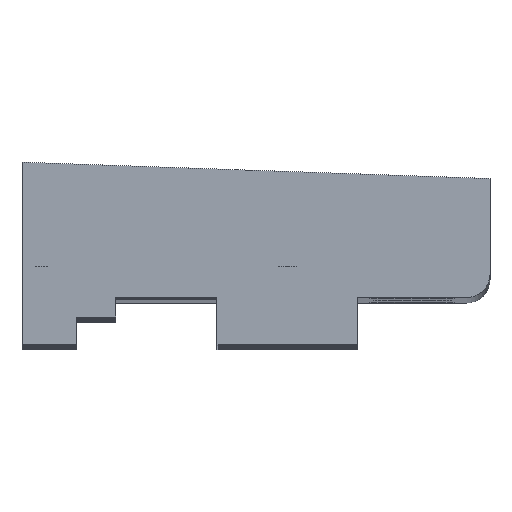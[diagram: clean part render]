
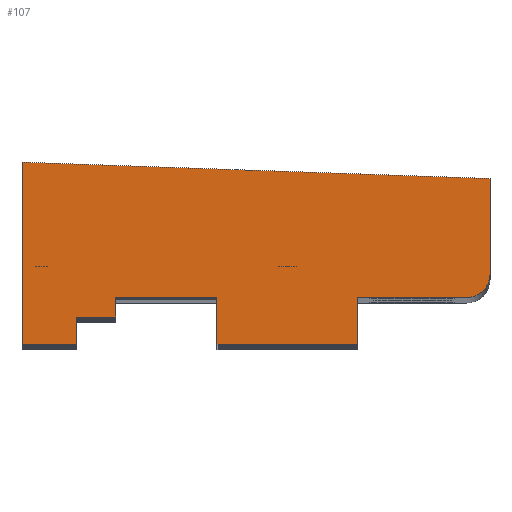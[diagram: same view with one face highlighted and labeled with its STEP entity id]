
A CAD part, top view. The second image highlights one B-rep face of the part: STEP entity #107.
In plain terms, the highlighted planar face has unit normal (0, 0, 1).
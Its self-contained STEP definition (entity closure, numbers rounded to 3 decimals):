
#107=ADVANCED_FACE('',(#6199),#6201,.T.);
#6199=FACE_BOUND('',#6200,.T.);
#6200=EDGE_LOOP('',(#11548,#11549,#11550,#11551,#11552,#11553,#11554,#11555,#11556,
#11557,#11558,#11559,#11560));
#6201=PLANE('',#6202);
#6202=AXIS2_PLACEMENT_3D('',#6203,#6204,#6205);
#6203=CARTESIAN_POINT('',(0.,0.,404.));
#6204=DIRECTION('',(0.,0.,1.));
#6205=DIRECTION('',(-1.,0.,0.));
#11548=ORIENTED_EDGE('',*,*,#15163,.T.);
#11549=ORIENTED_EDGE('',*,*,#15164,.T.);
#11550=ORIENTED_EDGE('',*,*,#15145,.T.);
#11551=ORIENTED_EDGE('',*,*,#15141,.T.);
#11552=ORIENTED_EDGE('',*,*,#15150,.T.);
#11553=ORIENTED_EDGE('',*,*,#15165,.T.);
#11554=ORIENTED_EDGE('',*,*,#15166,.T.);
#11555=ORIENTED_EDGE('',*,*,#15167,.T.);
#11556=ORIENTED_EDGE('',*,*,#15168,.T.);
#11557=ORIENTED_EDGE('',*,*,#15169,.T.);
#11558=ORIENTED_EDGE('',*,*,#15170,.T.);
#11559=ORIENTED_EDGE('',*,*,#15171,.T.);
#11560=ORIENTED_EDGE('',*,*,#15172,.T.);
#15141=EDGE_CURVE('',#16961,#16959,#16962,.T.);
#15145=EDGE_CURVE('',#16967,#16961,#16968,.T.);
#15150=EDGE_CURVE('',#16959,#16974,#16976,.T.);
#15163=EDGE_CURVE('',#16999,#17000,#17001,.T.);
#15164=EDGE_CURVE('',#17000,#16967,#17002,.T.);
#15165=EDGE_CURVE('',#16974,#17003,#17004,.T.);
#15166=EDGE_CURVE('',#17003,#17005,#17006,.T.);
#15167=EDGE_CURVE('',#17005,#17007,#17008,.T.);
#15168=EDGE_CURVE('',#17007,#17009,#17010,.T.);
#15169=EDGE_CURVE('',#17009,#17011,#17012,.T.);
#15170=EDGE_CURVE('',#17011,#17013,#17014,.T.);
#15171=EDGE_CURVE('',#17013,#17015,#17016,.T.);
#15172=EDGE_CURVE('',#17015,#16999,#17017,.T.);
#16959=VERTEX_POINT('',#20028);
#16961=VERTEX_POINT('',#20032);
#16962=LINE('',#20033,#20034);
#16967=VERTEX_POINT('',#20047);
#16968=LINE('',#20048,#20049);
#16974=VERTEX_POINT('',#20062);
#16976=LINE('',#20066,#20067);
#16999=VERTEX_POINT('',#20115);
#17000=VERTEX_POINT('',#20116);
#17001=LINE('',#20117,#20118);
#17002=LINE('',#20120,#20121);
#17003=VERTEX_POINT('',#20123);
#17004=LINE('',#20124,#20125);
#17005=VERTEX_POINT('',#20127);
#17006=CIRCLE('',#20128,3.);
#17007=VERTEX_POINT('',#20132);
#17008=LINE('',#20133,#20134);
#17009=VERTEX_POINT('',#20136);
#17010=LINE('',#20137,#20138);
#17011=VERTEX_POINT('',#20140);
#17012=LINE('',#20141,#20142);
#17013=VERTEX_POINT('',#20144);
#17014=LINE('',#20145,#20146);
#17015=VERTEX_POINT('',#20148);
#17016=LINE('',#20149,#20150);
#17017=LINE('',#20152,#20153);
#20028=CARTESIAN_POINT('',(-17.,-23.35,404.));
#20032=CARTESIAN_POINT('',(-35.,-23.35,404.));
#20033=CARTESIAN_POINT('',(-35.,-23.35,404.));
#20034=VECTOR('',#20035,1.);
#20035=DIRECTION('',(1.,0.,0.));
#20047=CARTESIAN_POINT('',(-35.,-17.35,404.));
#20048=CARTESIAN_POINT('',(-35.,-17.35,404.));
#20049=VECTOR('',#20050,1.);
#20050=DIRECTION('',(0.,-1.,0.));
#20062=CARTESIAN_POINT('',(-17.,-17.35,404.));
#20066=CARTESIAN_POINT('',(-17.,-23.35,404.));
#20067=VECTOR('',#20068,1.);
#20068=DIRECTION('',(0.,1.,0.));
#20115=CARTESIAN_POINT('',(-48.,-19.85,404.));
#20116=CARTESIAN_POINT('',(-48.,-17.35,404.));
#20117=CARTESIAN_POINT('',(-48.,-19.85,404.));
#20118=VECTOR('',#20119,1.);
#20119=DIRECTION('',(0.,1.,0.));
#20120=CARTESIAN_POINT('',(-48.,-17.35,404.));
#20121=VECTOR('',#20122,1.);
#20122=DIRECTION('',(1.,0.,0.));
#20123=CARTESIAN_POINT('',(-3.,-17.35,404.));
#20124=CARTESIAN_POINT('',(-17.,-17.35,404.));
#20125=VECTOR('',#20126,1.);
#20126=DIRECTION('',(1.,0.,0.));
#20127=CARTESIAN_POINT('',(0.,-14.35,404.));
#20128=AXIS2_PLACEMENT_3D('',#20129,#20130,#20131);
#20129=CARTESIAN_POINT('',(-3.,-14.35,404.));
#20130=DIRECTION('',(0.,0.,1.));
#20131=DIRECTION('',(0.,-1.,0.));
#20132=CARTESIAN_POINT('',(0.,-2.095,404.));
#20133=CARTESIAN_POINT('',(0.,-14.35,404.));
#20134=VECTOR('',#20135,1.);
#20135=DIRECTION('',(0.,1.,0.));
#20136=CARTESIAN_POINT('',(-60.,0.,404.));
#20137=CARTESIAN_POINT('',(0.,-2.095,404.));
#20138=VECTOR('',#20139,1.);
#20139=DIRECTION('',(-0.999,0.035,0.));
#20140=CARTESIAN_POINT('',(-60.,-23.35,404.));
#20141=CARTESIAN_POINT('',(-60.,0.,404.));
#20142=VECTOR('',#20143,1.);
#20143=DIRECTION('',(0.,-1.,0.));
#20144=CARTESIAN_POINT('',(-53.,-23.35,404.));
#20145=CARTESIAN_POINT('',(-60.,-23.35,404.));
#20146=VECTOR('',#20147,1.);
#20147=DIRECTION('',(1.,0.,0.));
#20148=CARTESIAN_POINT('',(-53.,-19.85,404.));
#20149=CARTESIAN_POINT('',(-53.,-23.35,404.));
#20150=VECTOR('',#20151,1.);
#20151=DIRECTION('',(0.,1.,0.));
#20152=CARTESIAN_POINT('',(-53.,-19.85,404.));
#20153=VECTOR('',#20154,1.);
#20154=DIRECTION('',(1.,0.,0.));
